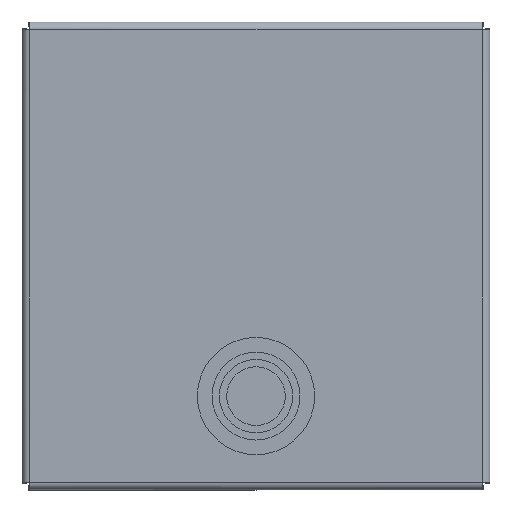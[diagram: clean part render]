
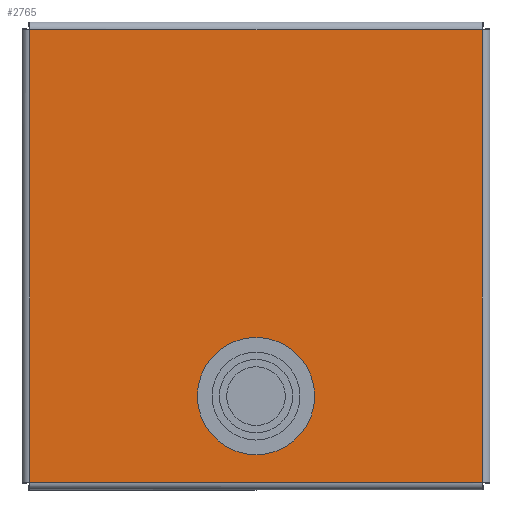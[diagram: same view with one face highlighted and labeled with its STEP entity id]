
A CAD part, top view. The second image highlights one B-rep face of the part: STEP entity #2765.
In plain terms, the highlighted planar face has unit normal (0, 0, 1).
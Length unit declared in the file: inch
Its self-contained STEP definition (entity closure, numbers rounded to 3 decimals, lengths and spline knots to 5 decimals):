
#83 = CARTESIAN_POINT ( 'NONE',  ( 3.858, -3.87487, 0. ) ) ;
#137 = VERTEX_POINT ( 'NONE', #1878 ) ;
#142 = CARTESIAN_POINT ( 'NONE',  ( -3.858, 3.87487, 0. ) ) ;
#181 = CARTESIAN_POINT ( 'NONE',  ( 3.858, -3.858, 0. ) ) ;
#187 = FACE_BOUND ( 'NONE', #562, .T. ) ;
#233 = CARTESIAN_POINT ( 'NONE',  ( 3.858, 3.858, 0. ) ) ;
#298 = DIRECTION ( 'NONE',  ( 1., 0., 0. ) ) ;
#360 = CARTESIAN_POINT ( 'NONE',  ( -3.858, -3.858, 0. ) ) ;
#395 = ORIENTED_EDGE ( 'NONE', *, *, #1963, .T. ) ;
#400 = ORIENTED_EDGE ( 'NONE', *, *, #1324, .T. ) ;
#402 = DIRECTION ( 'NONE',  ( 1., 0., 0. ) ) ;
#404 = CARTESIAN_POINT ( 'NONE',  ( 3.87487, 3.858, 0. ) ) ;
#544 = VERTEX_POINT ( 'NONE', #1869 ) ;
#562 = EDGE_LOOP ( 'NONE', ( #2462, #1110 ) ) ;
#607 = CARTESIAN_POINT ( 'NONE',  ( 0., -2.39, 0. ) ) ;
#690 = CARTESIAN_POINT ( 'NONE',  ( 0., -2.39, 0. ) ) ;
#698 = VERTEX_POINT ( 'NONE', #233 ) ;
#728 = CARTESIAN_POINT ( 'NONE',  ( 0., 0., 0. ) ) ;
#735 = CIRCLE ( 'NONE', #1260, 1. ) ;
#795 = EDGE_CURVE ( 'NONE', #963, #698, #1017, .T. ) ;
#858 = DIRECTION ( 'NONE',  ( -1., 0., 0. ) ) ;
#901 = DIRECTION ( 'NONE',  ( 1., 0., 0. ) ) ;
#963 = VERTEX_POINT ( 'NONE', #181 ) ;
#1016 = EDGE_LOOP ( 'NONE', ( #400, #395, #1891, #2020 ) ) ;
#1017 = LINE ( 'NONE', #83, #2004 ) ;
#1110 = ORIENTED_EDGE ( 'NONE', *, *, #2188, .T. ) ;
#1178 = VECTOR ( 'NONE', #2219, 39.37008 ) ;
#1257 = FACE_OUTER_BOUND ( 'NONE', #1016, .T. ) ;
#1260 = AXIS2_PLACEMENT_3D ( 'NONE', #690, #1987, #901 ) ;
#1324 = EDGE_CURVE ( 'NONE', #698, #2337, #2452, .T. ) ;
#1351 = CARTESIAN_POINT ( 'NONE',  ( -3.858, 3.858, 0. ) ) ;
#1483 = LINE ( 'NONE', #142, #1178 ) ;
#1564 = VECTOR ( 'NONE', #858, 39.37008 ) ;
#1637 = VERTEX_POINT ( 'NONE', #360 ) ;
#1683 = CIRCLE ( 'NONE', #2520, 1. ) ;
#1869 = CARTESIAN_POINT ( 'NONE',  ( -1., -2.39, 0. ) ) ;
#1878 = CARTESIAN_POINT ( 'NONE',  ( 1., -2.39, 0. ) ) ;
#1891 = ORIENTED_EDGE ( 'NONE', *, *, #2588, .T. ) ;
#1963 = EDGE_CURVE ( 'NONE', #2337, #1637, #1483, .T. ) ;
#1987 = DIRECTION ( 'NONE',  ( 0., 0., -1. ) ) ;
#2004 = VECTOR ( 'NONE', #2170, 39.37008 ) ;
#2020 = ORIENTED_EDGE ( 'NONE', *, *, #795, .T. ) ;
#2044 = VECTOR ( 'NONE', #2116, 39.37008 ) ;
#2116 = DIRECTION ( 'NONE',  ( 1., 0., 0. ) ) ;
#2149 = LINE ( 'NONE', #2709, #2044 ) ;
#2170 = DIRECTION ( 'NONE',  ( 0., 1., 0. ) ) ;
#2188 = EDGE_CURVE ( 'NONE', #544, #137, #1683, .T. ) ;
#2217 = AXIS2_PLACEMENT_3D ( 'NONE', #728, #2652, #298 ) ;
#2219 = DIRECTION ( 'NONE',  ( 0., -1., 0. ) ) ;
#2337 = VERTEX_POINT ( 'NONE', #1351 ) ;
#2360 = EDGE_CURVE ( 'NONE', #137, #544, #735, .T. ) ;
#2452 = LINE ( 'NONE', #404, #1564 ) ;
#2462 = ORIENTED_EDGE ( 'NONE', *, *, #2360, .T. ) ;
#2520 = AXIS2_PLACEMENT_3D ( 'NONE', #607, #2531, #402 ) ;
#2531 = DIRECTION ( 'NONE',  ( 0., 0., -1. ) ) ;
#2588 = EDGE_CURVE ( 'NONE', #1637, #963, #2149, .T. ) ;
#2650 = PLANE ( 'NONE',  #2217 ) ;
#2652 = DIRECTION ( 'NONE',  ( 0., 0., 1. ) ) ;
#2709 = CARTESIAN_POINT ( 'NONE',  ( -3.87487, -3.858, 0. ) ) ;
#2765 = ADVANCED_FACE ( 'NONE', ( #187, #1257 ), #2650, .T. ) ;
